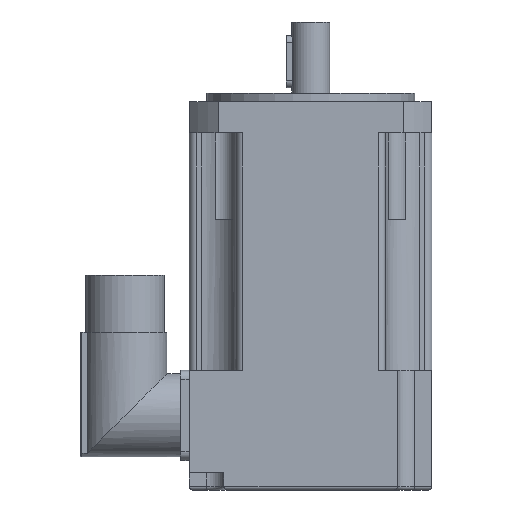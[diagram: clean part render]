
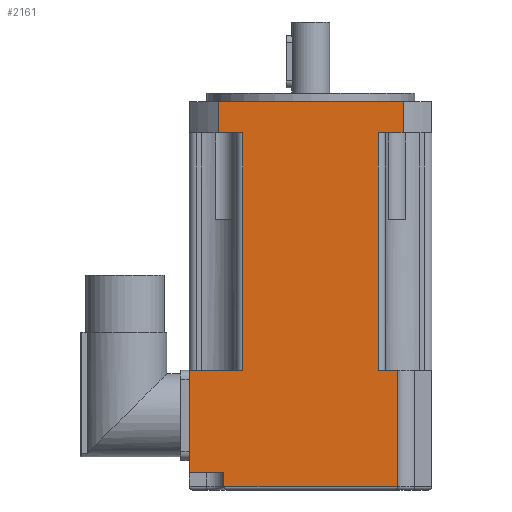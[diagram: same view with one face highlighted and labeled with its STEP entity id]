
A CAD part, left-side view. The second image highlights one B-rep face of the part: STEP entity #2161.
In plain terms, the highlighted planar face has unit normal (-1, 0, 0).
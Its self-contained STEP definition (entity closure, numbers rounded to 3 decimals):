
#313=FACE_OUTER_BOUND('',#451,.T.);
#451=EDGE_LOOP('',(#1851,#1852,#1853,#1854,#1855,#1856,#1857,#1858,#1859,
#1860,#1861,#1862,#1863,#1864));
#514=LINE('',#3260,#702);
#519=LINE('',#3284,#707);
#534=LINE('',#3353,#722);
#535=LINE('',#3356,#723);
#538=LINE('',#3362,#726);
#557=LINE('',#3410,#745);
#558=LINE('',#3415,#746);
#580=LINE('',#3464,#768);
#601=LINE('',#3543,#789);
#620=LINE('',#3595,#808);
#631=LINE('',#3633,#819);
#633=LINE('',#3638,#821);
#643=LINE('',#3660,#831);
#644=LINE('',#3662,#832);
#702=VECTOR('',#2555,7.165);
#707=VECTOR('',#2576,7.165);
#722=VECTOR('',#2645,9.);
#723=VECTOR('',#2648,9.);
#726=VECTOR('',#2655,53.329);
#745=VECTOR('',#2708,68.5);
#746=VECTOR('',#2713,68.5);
#768=VECTOR('',#2757,15.5);
#789=VECTOR('',#2836,50.);
#808=VECTOR('',#2893,29.5);
#819=VECTOR('',#2928,4.);
#821=VECTOR('',#2936,10.);
#831=VECTOR('',#2962,33.5);
#832=VECTOR('',#2965,5.5);
#907=VERTEX_POINT('',#3257);
#908=VERTEX_POINT('',#3259);
#918=VERTEX_POINT('',#3281);
#919=VERTEX_POINT('',#3283);
#946=VERTEX_POINT('',#3351);
#947=VERTEX_POINT('',#3355);
#960=VERTEX_POINT('',#3408);
#961=VERTEX_POINT('',#3412);
#978=VERTEX_POINT('',#3462);
#999=VERTEX_POINT('',#3515);
#1007=VERTEX_POINT('',#3542);
#1021=VERTEX_POINT('',#3593);
#1036=VERTEX_POINT('',#3632);
#1040=VERTEX_POINT('',#3658);
#1128=EDGE_CURVE('',#908,#907,#514,.T.);
#1140=EDGE_CURVE('',#919,#918,#519,.T.);
#1173=EDGE_CURVE('',#918,#946,#534,.T.);
#1174=EDGE_CURVE('',#908,#947,#535,.T.);
#1178=EDGE_CURVE('',#947,#946,#538,.T.);
#1203=EDGE_CURVE('',#960,#919,#557,.T.);
#1205=EDGE_CURVE('',#961,#907,#558,.T.);
#1230=EDGE_CURVE('',#978,#961,#580,.T.);
#1268=EDGE_CURVE('',#1007,#999,#601,.T.);
#1296=EDGE_CURVE('',#978,#1021,#620,.T.);
#1316=EDGE_CURVE('',#1036,#999,#631,.T.);
#1318=EDGE_CURVE('',#1036,#1021,#633,.T.);
#1329=EDGE_CURVE('',#1007,#1040,#643,.T.);
#1330=EDGE_CURVE('',#960,#1040,#644,.T.);
#1851=ORIENTED_EDGE('',*,*,#1268,.F.);
#1852=ORIENTED_EDGE('',*,*,#1329,.T.);
#1853=ORIENTED_EDGE('',*,*,#1330,.F.);
#1854=ORIENTED_EDGE('',*,*,#1203,.T.);
#1855=ORIENTED_EDGE('',*,*,#1140,.T.);
#1856=ORIENTED_EDGE('',*,*,#1173,.T.);
#1857=ORIENTED_EDGE('',*,*,#1178,.F.);
#1858=ORIENTED_EDGE('',*,*,#1174,.F.);
#1859=ORIENTED_EDGE('',*,*,#1128,.T.);
#1860=ORIENTED_EDGE('',*,*,#1205,.F.);
#1861=ORIENTED_EDGE('',*,*,#1230,.F.);
#1862=ORIENTED_EDGE('',*,*,#1296,.T.);
#1863=ORIENTED_EDGE('',*,*,#1318,.F.);
#1864=ORIENTED_EDGE('',*,*,#1316,.T.);
#2054=PLANE('',#2382);
#2161=ADVANCED_FACE('',(#313),#2054,.T.);
#2382=AXIS2_PLACEMENT_3D('',#3661,#2963,#2964);
#2555=DIRECTION('',(0.,-1.,0.));
#2576=DIRECTION('',(0.,-1.,0.));
#2645=DIRECTION('',(0.,0.,1.));
#2648=DIRECTION('',(0.,0.,1.));
#2655=DIRECTION('',(0.,-1.,0.));
#2708=DIRECTION('',(0.,0.,1.));
#2713=DIRECTION('',(0.,0.,1.));
#2757=DIRECTION('',(0.,-1.,0.));
#2836=DIRECTION('',(0.,1.,0.));
#2893=DIRECTION('',(0.,0.,-1.));
#2928=DIRECTION('',(0.,0.,-1.));
#2936=DIRECTION('',(0.,1.,0.));
#2962=DIRECTION('',(0.,0.,1.));
#2963=DIRECTION('center_axis',(-1.,0.,0.));
#2964=DIRECTION('ref_axis',(0.,-1.,0.));
#2965=DIRECTION('',(0.,-1.,0.));
#3257=CARTESIAN_POINT('',(-35.,19.5,81.5));
#3259=CARTESIAN_POINT('',(-35.,26.665,81.5));
#3260=CARTESIAN_POINT('',(-35.,26.665,81.5));
#3281=CARTESIAN_POINT('',(-35.,-26.665,81.5));
#3283=CARTESIAN_POINT('',(-35.,-19.5,81.5));
#3284=CARTESIAN_POINT('',(-35.,26.665,81.5));
#3351=CARTESIAN_POINT('',(-35.,-26.665,90.5));
#3353=CARTESIAN_POINT('',(-35.,-26.665,81.5));
#3355=CARTESIAN_POINT('',(-35.,26.665,90.5));
#3356=CARTESIAN_POINT('',(-35.,26.665,81.5));
#3362=CARTESIAN_POINT('',(-35.,26.665,90.5));
#3408=CARTESIAN_POINT('',(-35.,-19.5,13.));
#3410=CARTESIAN_POINT('',(-35.,-19.5,13.));
#3412=CARTESIAN_POINT('',(-35.,19.5,13.));
#3415=CARTESIAN_POINT('',(-35.,19.5,13.));
#3462=CARTESIAN_POINT('',(-35.,35.,13.));
#3464=CARTESIAN_POINT('',(-35.,35.,13.));
#3515=CARTESIAN_POINT('',(-35.,25.,-20.5));
#3542=CARTESIAN_POINT('',(-35.,-25.,-20.5));
#3543=CARTESIAN_POINT('',(-35.,17.5,-20.5));
#3593=CARTESIAN_POINT('',(-35.,35.,-16.5));
#3595=CARTESIAN_POINT('',(-35.,35.,0.));
#3632=CARTESIAN_POINT('',(-35.,25.,-16.5));
#3633=CARTESIAN_POINT('',(-35.,25.,-16.5));
#3638=CARTESIAN_POINT('',(-35.,35.,-16.5));
#3658=CARTESIAN_POINT('',(-35.,-25.,13.));
#3660=CARTESIAN_POINT('',(-35.,-25.,0.));
#3661=CARTESIAN_POINT('Origin',(-35.,35.,0.));
#3662=CARTESIAN_POINT('',(-35.,35.,13.));
